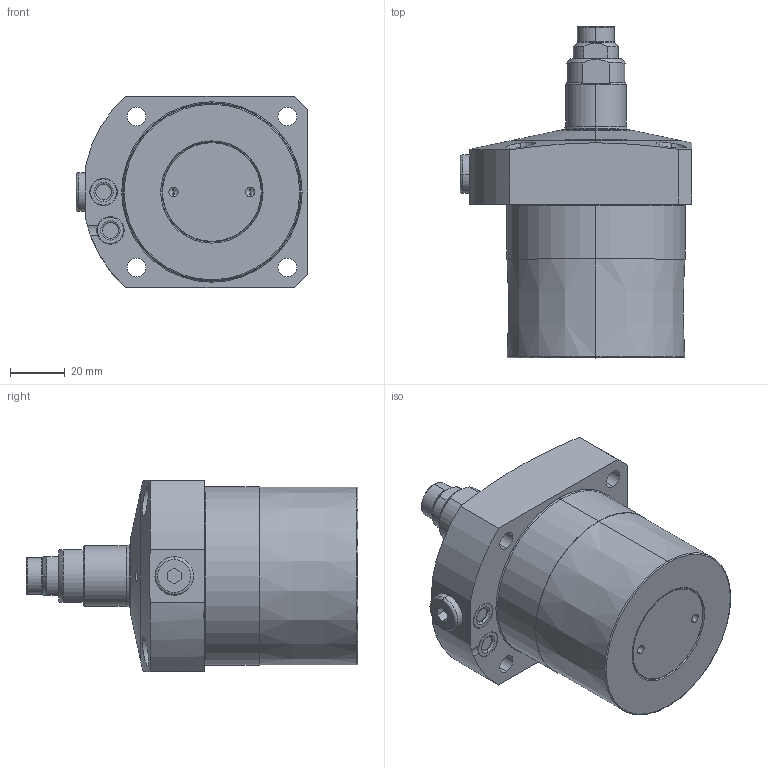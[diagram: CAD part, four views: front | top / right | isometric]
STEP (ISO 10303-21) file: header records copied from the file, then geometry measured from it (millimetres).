
FILE_DESCRIPTION(/* description */ (''),/* implementation_level */ '2;1');
FILE_NAME(/* name */ 'KFSS65-M.stp',/* time_stamp */ '2026-02-06T10:20:28+08:00',/* author */ (''),/* organization */ (''),/* preprocessor_version */ 'ST-DEVELOPER v16.7',/* originating_system */ 'SIEMENS PLM Software NX 12.0',/* authorisation */ '');
FILE_SCHEMA (('AUTOMOTIVE_DESIGN { 1 0 10303 214 3 1 1 1 }'));
Length unit declared in the file: millimetre
Products named in the file (10): XLC-M12_o-ring; XLC-M12SP_pad; XLC-M12SP_contactbolt; XLC-M12SP_pin; KFSS65-M-04; KFSS65-M-02; KFSS65-M-01; KFSS65-M-05-P7; KFSS65-M-03; LC0653-CxM-E_step
Assembly tree (10 placements, depth 3):
  LC0653-CxM-E_step
    KFSS65-M-03
      XLC-M12SP_pin
      XLC-M12SP_contactbolt
      XLC-M12SP_pad
      XLC-M12_o-ring
    KFSS65-M-05-P7  x2
    KFSS65-M-01
    KFSS65-M-02
    KFSS65-M-04
Bounding box: 84.5 x 121 x 70 mm (x, y, z)
Volume: 312775.2 mm3; surface area: 38143.5 mm2
Topology: 9 solids, 9 shells, 280 faces, 624 edges, 377 vertices
Faces by surface type: cylinder 93, torus 63, plane 61, cone 57, sphere 6
Entity records: 8322 total; most frequent: CARTESIAN_POINT 1887, DIRECTION 1423, ORIENTED_EDGE 1184, AXIS2_PLACEMENT_3D 614, EDGE_CURVE 592, VERTEX_POINT 363, CIRCLE 335, EDGE_LOOP 311
